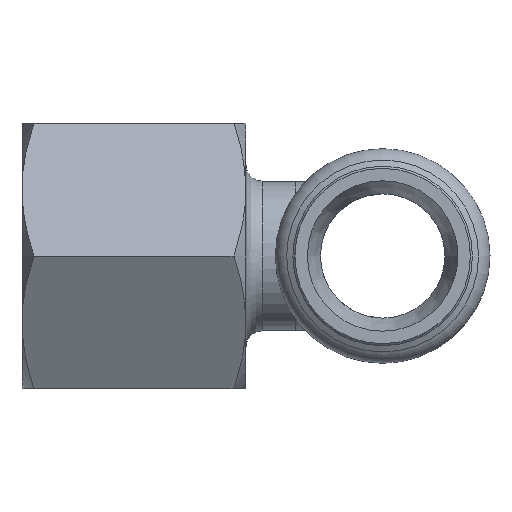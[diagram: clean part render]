
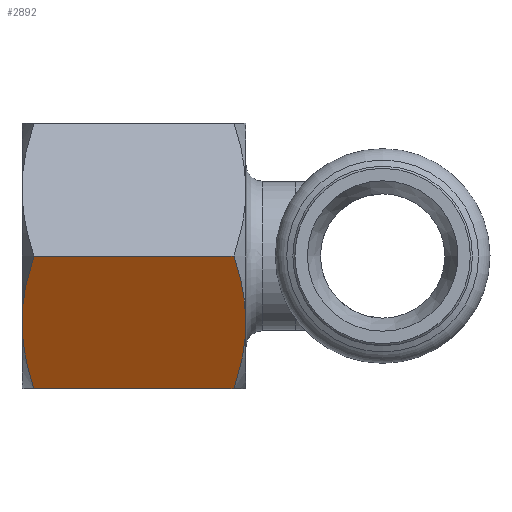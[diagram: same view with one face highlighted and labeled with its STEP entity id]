
A CAD part, left-side view. The second image highlights one B-rep face of the part: STEP entity #2892.
In plain terms, the highlighted planar face has unit normal (-0.866, 0, -0.5) as drawn and (0.866, 0.5, 0) by its records, which use the part's own axes.
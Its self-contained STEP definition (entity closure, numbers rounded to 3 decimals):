
#2025=CARTESIAN_POINT('',(18.475,0.,-31.571));
#2026=VERTEX_POINT('',#2025);
#2027=CARTESIAN_POINT('',(13.856,8.,-33.0));
#2028=VERTEX_POINT('',#2027);
#2029=CARTESIAN_POINT('',(18.475,0.,-31.571));
#2030=CARTESIAN_POINT('',(16.,4.287,-33.));
#2031=CARTESIAN_POINT('',(13.856,8.,-33.0));
#2039=(BOUNDED_CURVE()B_SPLINE_CURVE(2,(#2029,#2030,#2031),.UNSPECIFIED.,.F.,.U.)B_SPLINE_CURVE_WITH_KNOTS((3,3),(0.131,1.087),.UNSPECIFIED.)CURVE()GEOMETRIC_REPRESENTATION_ITEM()RATIONAL_B_SPLINE_CURVE((1.01,1.043,1.0))REPRESENTATION_ITEM(''));
#2040=EDGE_CURVE('',#2026,#2028,#2039,.T.);
#2070=CARTESIAN_POINT('',(9.238,16.,-31.571));
#2071=VERTEX_POINT('',#2070);
#2087=CARTESIAN_POINT('',(13.856,8.,-33.0));
#2088=CARTESIAN_POINT('',(11.713,11.713,-33.0));
#2089=CARTESIAN_POINT('',(9.238,16.,-31.571));
#2097=(BOUNDED_CURVE()B_SPLINE_CURVE(2,(#2087,#2088,#2089),.UNSPECIFIED.,.F.,.U.)B_SPLINE_CURVE_WITH_KNOTS((3,3),(1.087,2.043),.UNSPECIFIED.)CURVE()GEOMETRIC_REPRESENTATION_ITEM()RATIONAL_B_SPLINE_CURVE((1.0,1.043,1.01))REPRESENTATION_ITEM(''));
#2098=EDGE_CURVE('',#2028,#2071,#2097,.T.);
#2340=CARTESIAN_POINT('',(9.238,16.,-7.429));
#2341=VERTEX_POINT('',#2340);
#2342=CARTESIAN_POINT('',(13.856,8.,-6.));
#2343=VERTEX_POINT('',#2342);
#2344=CARTESIAN_POINT('',(9.238,16.,-7.429));
#2345=CARTESIAN_POINT('',(11.713,11.713,-6.0));
#2346=CARTESIAN_POINT('',(13.856,8.,-6.));
#2354=(BOUNDED_CURVE()B_SPLINE_CURVE(2,(#2344,#2345,#2346),.UNSPECIFIED.,.F.,.U.)B_SPLINE_CURVE_WITH_KNOTS((3,3),(0.172,1.134),.UNSPECIFIED.)CURVE()GEOMETRIC_REPRESENTATION_ITEM()RATIONAL_B_SPLINE_CURVE((1.014,1.045,1.0))REPRESENTATION_ITEM(''));
#2355=EDGE_CURVE('',#2341,#2343,#2354,.T.);
#2385=CARTESIAN_POINT('',(18.475,0.,-7.429));
#2386=VERTEX_POINT('',#2385);
#2387=CARTESIAN_POINT('',(13.856,8.,-6.));
#2388=CARTESIAN_POINT('',(16.,4.287,-6.0));
#2389=CARTESIAN_POINT('',(18.475,0.,-7.429));
#2397=(BOUNDED_CURVE()B_SPLINE_CURVE(2,(#2387,#2388,#2389),.UNSPECIFIED.,.F.,.U.)B_SPLINE_CURVE_WITH_KNOTS((3,3),(1.134,2.096),.UNSPECIFIED.)CURVE()GEOMETRIC_REPRESENTATION_ITEM()RATIONAL_B_SPLINE_CURVE((1.0,1.045,1.014))REPRESENTATION_ITEM(''));
#2398=EDGE_CURVE('',#2343,#2386,#2397,.T.);
#2528=CARTESIAN_POINT('',(9.238,16.,-7.429));
#2529=DIRECTION('',(0.0,0.0,-1.0));
#2530=VECTOR('',#2529,24.142);
#2531=LINE('',#2528,#2530);
#2532=EDGE_CURVE('',#2341,#2071,#2531,.T.);
#2874=CARTESIAN_POINT('',(18.475,0.,0.0));
#2875=DIRECTION('',(0.866,0.5,0.0));
#2876=DIRECTION('',(0.0,0.0,-1.0));
#2877=AXIS2_PLACEMENT_3D('',#2874,#2875,#2876);
#2878=PLANE('',#2877);
#2879=ORIENTED_EDGE('',*,*,#2098,.T.);
#2880=ORIENTED_EDGE('',*,*,#2532,.F.);
#2881=ORIENTED_EDGE('',*,*,#2355,.T.);
#2882=ORIENTED_EDGE('',*,*,#2398,.T.);
#2883=CARTESIAN_POINT('',(18.475,0.,-7.429));
#2884=DIRECTION('',(0.0,0.0,-1.0));
#2885=VECTOR('',#2884,24.142);
#2886=LINE('',#2883,#2885);
#2887=EDGE_CURVE('',#2386,#2026,#2886,.T.);
#2888=ORIENTED_EDGE('',*,*,#2887,.T.);
#2889=ORIENTED_EDGE('',*,*,#2040,.T.);
#2890=EDGE_LOOP('',(#2879,#2880,#2881,#2882,#2888,#2889));
#2891=FACE_OUTER_BOUND('',#2890,.T.);
#2892=ADVANCED_FACE('',(#2891),#2878,.T.);
